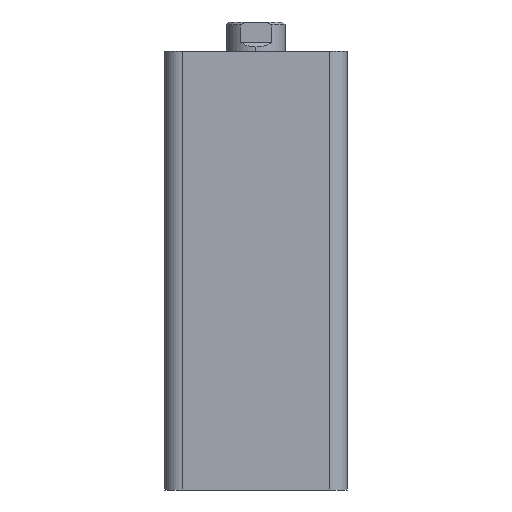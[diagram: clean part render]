
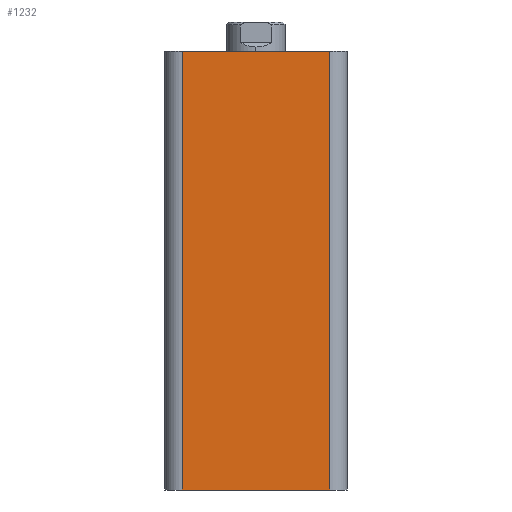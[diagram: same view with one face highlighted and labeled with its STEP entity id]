
A CAD part, left-side view. The second image highlights one B-rep face of the part: STEP entity #1232.
In plain terms, the highlighted planar face has unit normal (-1, 0, 0).
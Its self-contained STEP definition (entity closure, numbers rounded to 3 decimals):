
#394 = CARTESIAN_POINT ( 'NONE',  ( -31., 31., 149. ) ) ;
#401 = PLANE ( 'NONE',  #4194 ) ;
#403 = DIRECTION ( 'NONE',  ( 1., 0., 0. ) ) ;
#404 = DIRECTION ( 'NONE',  ( 0., 0., -1. ) ) ;
#744 = DIRECTION ( 'NONE',  ( 0., 0., 1. ) ) ;
#747 = CARTESIAN_POINT ( 'NONE',  ( -31., -25., 149. ) ) ;
#937 = LINE ( 'NONE', #1853, #939 ) ;
#939 = VECTOR ( 'NONE', #1854, 1000. ) ;
#1232 = ADVANCED_FACE ( 'NONE', ( #4482 ), #401, .F. ) ;
#1417 = EDGE_CURVE ( 'NONE', #5053, #4019, #4596, .T. ) ;
#1595 = DIRECTION ( 'NONE',  ( 0., 0., -1. ) ) ;
#1600 = CARTESIAN_POINT ( 'NONE',  ( -31., 25., 149. ) ) ;
#1632 = CARTESIAN_POINT ( 'NONE',  ( -31., -25., 149. ) ) ;
#1643 = CARTESIAN_POINT ( 'NONE',  ( -31., 25., 149. ) ) ;
#1710 = CARTESIAN_POINT ( 'NONE',  ( -31., 31., 149. ) ) ;
#1711 = DIRECTION ( 'NONE',  ( 0., -1., 0. ) ) ;
#1841 = CARTESIAN_POINT ( 'NONE',  ( -31., -25., 0. ) ) ;
#1844 = CARTESIAN_POINT ( 'NONE',  ( -31., 25., 0. ) ) ;
#1853 = CARTESIAN_POINT ( 'NONE',  ( -31., 31., 0. ) ) ;
#1854 = DIRECTION ( 'NONE',  ( 0., -1., 0. ) ) ;
#2598 = EDGE_LOOP ( 'NONE', ( #2635, #2636, #2637, #2638 ) ) ;
#2635 = ORIENTED_EDGE ( 'NONE', *, *, #5073, .T. ) ;
#2636 = ORIENTED_EDGE ( 'NONE', *, *, #1417, .T. ) ;
#2637 = ORIENTED_EDGE ( 'NONE', *, *, #4075, .F. ) ;
#2638 = ORIENTED_EDGE ( 'NONE', *, *, #3215, .T. ) ;
#3215 = EDGE_CURVE ( 'NONE', #4030, #5056, #4916, .T. ) ;
#4019 = VERTEX_POINT ( 'NONE', #1632 ) ;
#4030 = VERTEX_POINT ( 'NONE', #1643 ) ;
#4075 = EDGE_CURVE ( 'NONE', #4030, #4019, #4953, .T. ) ;
#4194 = AXIS2_PLACEMENT_3D ( 'NONE', #394, #403, #404 ) ;
#4482 = FACE_OUTER_BOUND ( 'NONE', #2598, .T. ) ;
#4596 = LINE ( 'NONE', #747, #4600 ) ;
#4600 = VECTOR ( 'NONE', #744, 1000. ) ;
#4916 = LINE ( 'NONE', #1600, #4920 ) ;
#4920 = VECTOR ( 'NONE', #1595, 1000. ) ;
#4953 = LINE ( 'NONE', #1710, #4955 ) ;
#4955 = VECTOR ( 'NONE', #1711, 1000. ) ;
#5053 = VERTEX_POINT ( 'NONE', #1841 ) ;
#5056 = VERTEX_POINT ( 'NONE', #1844 ) ;
#5073 = EDGE_CURVE ( 'NONE', #5056, #5053, #937, .T. ) ;
